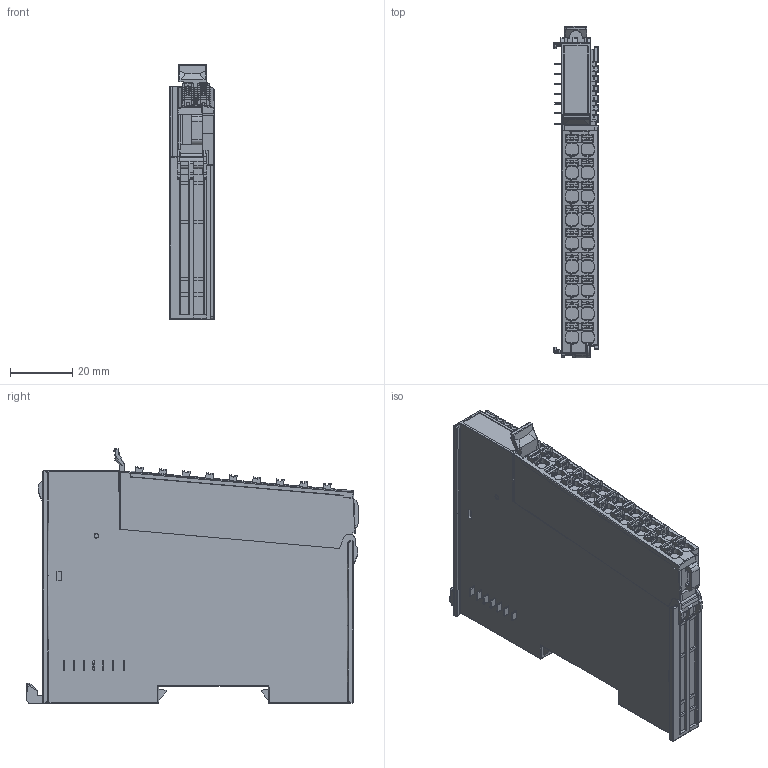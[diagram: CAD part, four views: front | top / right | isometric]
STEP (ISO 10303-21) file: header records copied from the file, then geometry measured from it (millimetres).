
FILE_DESCRIPTION((''),'2;1');
FILE_NAME('GL20-IO','2022-04-18T',('10002660'),(''),'CREO PARAMETRIC BY PTC INC, 2015290','CREO PARAMETRIC BY PTC INC, 2015290','');
FILE_SCHEMA(('CONFIG_CONTROL_DESIGN'));
Products named in the file (1): GL20-IO
Bounding box: 14.45 x 107.04 x 82.09 mm (x, y, z)
Volume: 81852.3 mm3; surface area: 24837.1 mm2
Topology: 1 solids, 16 shells, 3354 faces, 9301 edges, 5968 vertices
Faces by surface type: plane 1836, cylinder 1164, bspline 227, torus 106, sphere 16, cone 4, extrusion 1
Entity records: 149130 total; most frequent: CARTESIAN_POINT 65565, ORIENTED_EDGE 18572, DIRECTION 15903, EDGE_CURVE 9286, VECTOR 5985, LINE 5984, VERTEX_POINT 5968, AXIS2_PLACEMENT_3D 4959
